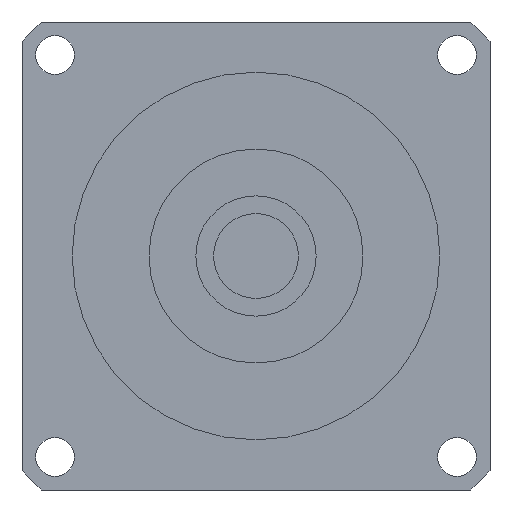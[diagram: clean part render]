
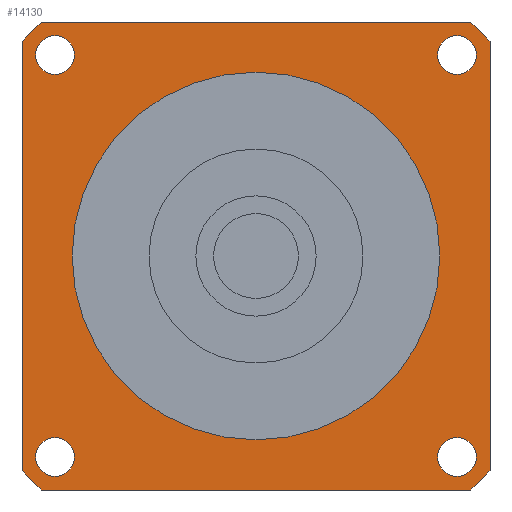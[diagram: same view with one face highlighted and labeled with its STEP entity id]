
A CAD part, left-side view. The second image highlights one B-rep face of the part: STEP entity #14130.
In plain terms, the highlighted planar face has unit normal (-1, 0, 0) as drawn and (0, 0, -1) by its records, which use the part's own axes.
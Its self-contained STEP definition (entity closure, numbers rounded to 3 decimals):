
#8830=CARTESIAN_POINT('',(-35.,-32.113,-37.1));
#8840=VERTEX_POINT('',#8830);
#8890=CARTESIAN_POINT('',(-35.,-35.,-37.1));
#8900=DIRECTION('',(0.,1.,0.));
#8910=VECTOR('',#8900,1000.);
#8920=LINE('',#8890,#8910);
#8930=CARTESIAN_POINT('',(-35.,32.113,-37.1));
#8940=VERTEX_POINT('',#8930);
#8950=EDGE_CURVE('',#8840,#8940,#8920,.T.);
#9340=CARTESIAN_POINT('',(27.152,-30.052,-37.1));
#9350=VERTEX_POINT('',#9340);
#9380=CARTESIAN_POINT('',(30.052,-30.052,-37.1));
#9390=DIRECTION('',(0.,0.,-1.));
#9400=DIRECTION('',(1.,0.,0.));
#9410=AXIS2_PLACEMENT_3D('',#9380,#9390,#9400);
#9420=CIRCLE('',#9410,2.9);
#9430=CARTESIAN_POINT('',(32.952,-30.052,-37.1));
#9440=VERTEX_POINT('',#9430);
#9450=EDGE_CURVE('',#9440,#9350,#9420,.T.);
#12650=CARTESIAN_POINT('',(-30.052,-27.152,-37.1));
#12660=VERTEX_POINT('',#12650);
#12690=CARTESIAN_POINT('',(-30.052,-30.052,-37.1));
#12700=DIRECTION('',(0.,0.,-1.));
#12710=DIRECTION('',(0.,-1.,0.));
#12720=AXIS2_PLACEMENT_3D('',#12690,#12700,#12710);
#12730=CIRCLE('',#12720,2.9);
#12740=CARTESIAN_POINT('',(-30.052,-32.952,-37.1));
#12750=VERTEX_POINT('',#12740);
#12760=EDGE_CURVE('',#12750,#12660,#12730,.T.);
#12880=CARTESIAN_POINT('',(35.,35.,-37.1));
#12890=DIRECTION('',(0.,0.,-1.));
#12900=DIRECTION('',(1.,0.,0.));
#12910=AXIS2_PLACEMENT_3D('',#12880,#12890,#12900);
#12920=PLANE('',#12910);
#12930=ORIENTED_EDGE('',*,*,#12760,.F.);
#12940=EDGE_CURVE('',#12660,#12750,#12730,.T.);
#12950=ORIENTED_EDGE('',*,*,#12940,.F.);
#12960=EDGE_LOOP('',(#12950,#12930));
#12970=FACE_BOUND('',#12960,.T.);
#12980=CARTESIAN_POINT('',(-30.052,30.052,-37.1));
#12990=DIRECTION('',(0.,0.,-1.));
#13000=DIRECTION('',(-1.,0.,0.));
#13010=AXIS2_PLACEMENT_3D('',#12980,#12990,#13000);
#13020=CIRCLE('',#13010,2.9);
#13030=CARTESIAN_POINT('',(-32.952,30.052,-37.1));
#13040=VERTEX_POINT('',#13030);
#13050=CARTESIAN_POINT('',(-27.152,30.052,-37.1));
#13060=VERTEX_POINT('',#13050);
#13070=EDGE_CURVE('',#13040,#13060,#13020,.T.);
#13080=ORIENTED_EDGE('',*,*,#13070,.F.);
#13090=EDGE_CURVE('',#13060,#13040,#13020,.T.);
#13100=ORIENTED_EDGE('',*,*,#13090,.F.);
#13110=EDGE_LOOP('',(#13100,#13080));
#13120=FACE_BOUND('',#13110,.T.);
#13130=CARTESIAN_POINT('',(30.052,30.052,-37.1));
#13140=DIRECTION('',(0.,0.,-1.));
#13150=DIRECTION('',(0.,1.,0.));
#13160=AXIS2_PLACEMENT_3D('',#13130,#13140,#13150);
#13170=CIRCLE('',#13160,2.9);
#13180=CARTESIAN_POINT('',(30.052,32.952,-37.1));
#13190=VERTEX_POINT('',#13180);
#13200=CARTESIAN_POINT('',(30.052,27.152,-37.1));
#13210=VERTEX_POINT('',#13200);
#13220=EDGE_CURVE('',#13190,#13210,#13170,.T.);
#13230=ORIENTED_EDGE('',*,*,#13220,.F.);
#13240=EDGE_CURVE('',#13210,#13190,#13170,.T.);
#13250=ORIENTED_EDGE('',*,*,#13240,.F.);
#13260=EDGE_LOOP('',(#13250,#13230));
#13270=FACE_BOUND('',#13260,.T.);
#13280=CARTESIAN_POINT('',(0.,0.,
-37.1));
#13290=DIRECTION('',(0.,0.,1.));
#13300=DIRECTION('',(0.,1.,0.));
#13310=AXIS2_PLACEMENT_3D('',#13280,#13290,#13300);
#13320=CIRCLE('',#13310,27.5);
#13330=CARTESIAN_POINT('',(-27.5,0.,-37.1));
#13340=VERTEX_POINT('',#13330);
#13350=CARTESIAN_POINT('',(27.5,0.,-37.1));
#13360=VERTEX_POINT('',#13350);
#13370=EDGE_CURVE('',#13340,#13360,#13320,.T.);
#13380=ORIENTED_EDGE('',*,*,#13370,.T.);
#13390=CARTESIAN_POINT('',(0.,27.5,-37.1));
#13400=VERTEX_POINT('',#13390);
#13410=EDGE_CURVE('',#13400,#13340,#13320,.T.);
#13420=ORIENTED_EDGE('',*,*,#13410,.T.);
#13430=EDGE_CURVE('',#13360,#13400,#13320,.T.);
#13440=ORIENTED_EDGE('',*,*,#13430,.T.);
#13450=EDGE_LOOP('',(#13440,#13420,#13380));
#13460=FACE_BOUND('',#13450,.T.);
#13470=CARTESIAN_POINT('',(-35.,35.,-37.1));
#13480=DIRECTION('',(1.,0.,0.));
#13490=VECTOR('',#13480,1000.);
#13500=LINE('',#13470,#13490);
#13510=CARTESIAN_POINT('',(-32.113,35.,-37.1));
#13520=VERTEX_POINT('',#13510);
#13530=CARTESIAN_POINT('',(32.113,35.,-37.1));
#13540=VERTEX_POINT('',#13530);
#13550=EDGE_CURVE('',#13520,#13540,#13500,.T.);
#13560=ORIENTED_EDGE('',*,*,#13550,.T.);
#13570=CARTESIAN_POINT('',(0.,0.,-37.1));
#13580=DIRECTION('',(0.,0.,-1.));
#13590=DIRECTION('',(1.,0.,0.));
#13600=AXIS2_PLACEMENT_3D('',#13570,#13580,#13590);
#13610=CIRCLE('',#13600,47.5);
#13620=EDGE_CURVE('',#8940,#13520,#13610,.T.);
#13630=ORIENTED_EDGE('',*,*,#13620,.T.);
#13640=ORIENTED_EDGE('',*,*,#8950,.T.);
#13650=CARTESIAN_POINT('',(0.,0.,-37.1));
#13660=DIRECTION('',(0.,0.,-1.));
#13670=DIRECTION('',(1.,0.,0.));
#13680=AXIS2_PLACEMENT_3D('',#13650,#13660,#13670);
#13690=CIRCLE('',#13680,47.5);
#13700=CARTESIAN_POINT('',(-32.113,-35.,-37.1));
#13710=VERTEX_POINT('',#13700);
#13720=EDGE_CURVE('',#13710,#8840,#13690,.T.);
#13730=ORIENTED_EDGE('',*,*,#13720,.T.);
#13740=CARTESIAN_POINT('',(35.,-35.,-37.1));
#13750=DIRECTION('',(-1.,0.,0.));
#13760=VECTOR('',#13750,1000.);
#13770=LINE('',#13740,#13760);
#13780=CARTESIAN_POINT('',(32.113,-35.,-37.1));
#13790=VERTEX_POINT('',#13780);
#13800=EDGE_CURVE('',#13790,#13710,#13770,.T.);
#13810=ORIENTED_EDGE('',*,*,#13800,.T.);
#13820=CARTESIAN_POINT('',(0.,0.,-37.1));
#13830=DIRECTION('',(0.,0.,-1.));
#13840=DIRECTION('',(1.,0.,0.));
#13850=AXIS2_PLACEMENT_3D('',#13820,#13830,#13840);
#13860=CIRCLE('',#13850,47.5);
#13870=CARTESIAN_POINT('',(35.,-32.113,-37.1));
#13880=VERTEX_POINT('',#13870);
#13890=EDGE_CURVE('',#13880,#13790,#13860,.T.);
#13900=ORIENTED_EDGE('',*,*,#13890,.T.);
#13910=CARTESIAN_POINT('',(35.,35.,-37.1));
#13920=DIRECTION('',(0.,-1.,0.));
#13930=VECTOR('',#13920,1000.);
#13940=LINE('',#13910,#13930);
#13950=CARTESIAN_POINT('',(35.,32.113,-37.1));
#13960=VERTEX_POINT('',#13950);
#13970=EDGE_CURVE('',#13960,#13880,#13940,.T.);
#13980=ORIENTED_EDGE('',*,*,#13970,.T.);
#13990=CARTESIAN_POINT('',(0.,0.,-37.1));
#14000=DIRECTION('',(0.,0.,-1.));
#14010=DIRECTION('',(1.,0.,0.));
#14020=AXIS2_PLACEMENT_3D('',#13990,#14000,#14010);
#14030=CIRCLE('',#14020,47.5);
#14040=EDGE_CURVE('',#13540,#13960,#14030,.T.);
#14050=ORIENTED_EDGE('',*,*,#14040,.T.);
#14060=EDGE_LOOP('',(#14050,#13980,#13900,#13810,#13730,#13640,#13630,
#13560));
#14070=FACE_OUTER_BOUND('',#14060,.T.);
#14080=ORIENTED_EDGE('',*,*,#9450,.F.);
#14090=EDGE_CURVE('',#9350,#9440,#9420,.T.);
#14100=ORIENTED_EDGE('',*,*,#14090,.F.);
#14110=EDGE_LOOP('',(#14100,#14080));
#14120=FACE_BOUND('',#14110,.T.);
#14130=ADVANCED_FACE('',(#12970,#13120,#13270,#13460,#14070,#14120),
#12920,.T.);
